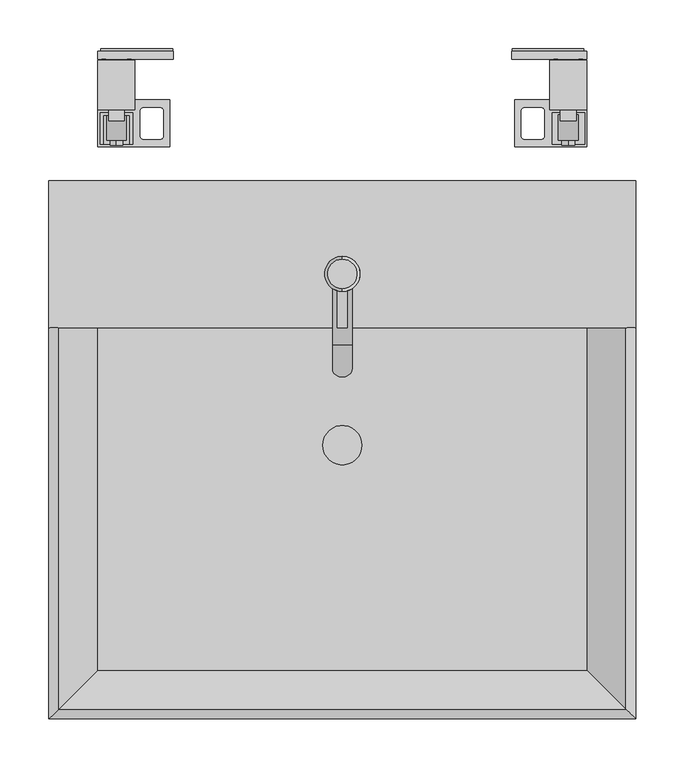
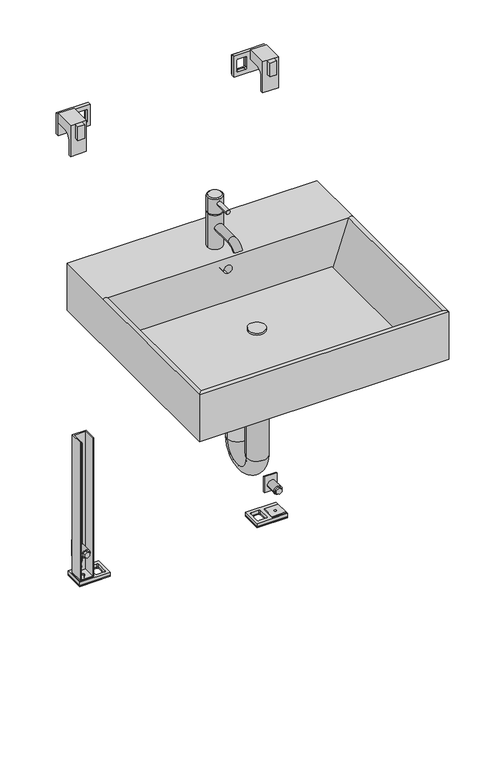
"""IFC4 building model written with IfcOpenShell, lengths in millimetres: flow terminal geometry, nextVIT Waschtisch-Element Wasserzählerstrecke WZ2 Rotguss : nextVIT Waschtisch-Element Wasserzählerstrecke WZ2 Rotguss."""

from ifc_helpers import new_model, si_unit, point, frame, frame_2d, origin, origin_with_axes, place, context, project, spatial, polyline, circle_curve, ellipse_curve, trimmed, segment, composite_curve, outline, extrude, source, transform, mapped, element, save
from ifc_brep_helpers import plane_surface, cylinder_surface, revolved_surface, advanced_brep


def flow_terminal_cf3be14c(model_context):
    return source(origin(), model_context, "Body", "SolidModel", [
        advanced_brep(
        [(0.0, -245.0, 989.0), (0.0, -215.0, 989.0), (18.0, -230.0, 860.0), (-18.0, -230.0, 860.0), (-18.0, -230.0, 946.0), (0.0, -212.0, 946.0), (18.0, -230.0, 946.0), (18.0, -230.0, 986.0), (18.0, -230.0, 949.0), (0.0, -212.0, 949.0), (-18.0, -230.0, 949.0), (-18.0, -230.0, 986.0), (0.0, -212.0, 986.0), (0.0, -248.0, 946.0), (0.0, -248.0, 986.0), (0.0, -248.0, 949.0), (0.0, -245.0, 949.0), (0.0, -215.0, 949.0), (0.0, -245.0, 946.0), (0.0, -215.0, 946.0)],
        [
            (0, 1, circle_curve(frame((0.0, -230.0, 989.0), z_axis=(0.0, 0.0, 1.0), x_axis=(0.0, 1.0, 0.0)), 15.0)),
            (1, 0, circle_curve(frame((0.0, -230.0, 989.0), z_axis=(0.0, 0.0, 1.0), x_axis=(0.0, 1.0, 0.0)), 15.0)),
            (2, 3, circle_curve(frame((0.0, -230.0, 860.0), z_axis=(0.0, 0.0, -1.0), x_axis=(-1.0, 0.0, 0.0)), 18.0)),
            (3, 2, circle_curve(frame((0.0, -230.0, 860.0), z_axis=(0.0, 0.0, -1.0), x_axis=(-1.0, 0.0, 0.0)), 18.0)),
            (3, 4),
            (4, 5, circle_curve(frame((0.0, -230.0, 946.0), z_axis=(0.0, 0.0, -1.0), x_axis=(-1.0, 0.0, 0.0)), 18.0)),
            (5, 6, circle_curve(frame((0.0, -230.0, 946.0), z_axis=(0.0, 0.0, -1.0), x_axis=(-1.0, 0.0, 0.0)), 18.0)),
            (6, 2),
            (7, 8),
            (8, 9, circle_curve(frame((0.0, -230.0, 949.0), z_axis=(0.0, 0.0, 1.0), x_axis=(-1.0, 0.0, 0.0)), 18.0)),
            (9, 10, circle_curve(frame((0.0, -230.0, 949.0), z_axis=(0.0, 0.0, 1.0), x_axis=(-1.0, 0.0, 0.0)), 18.0)),
            (10, 11),
            (11, 12, circle_curve(frame((0.0, -230.0, 986.0), z_axis=(0.0, 0.0, -1.0), x_axis=(-1.0, 0.0, 0.0)), 18.0)),
            (12, 7, circle_curve(frame((0.0, -230.0, 986.0), z_axis=(0.0, 0.0, -1.0), x_axis=(-1.0, 0.0, 0.0)), 18.0)),
            (6, 13, circle_curve(frame((0.0, -230.0, 946.0), z_axis=(0.0, 0.0, -1.0), x_axis=(-1.0, 0.0, 0.0)), 18.0)),
            (13, 4, circle_curve(frame((0.0, -230.0, 946.0), z_axis=(0.0, 0.0, -1.0), x_axis=(-1.0, 0.0, 0.0)), 18.0)),
            (7, 14, circle_curve(frame((0.0, -230.0, 986.0), z_axis=(0.0, 0.0, -1.0), x_axis=(-1.0, 0.0, 0.0)), 18.0)),
            (14, 11, circle_curve(frame((0.0, -230.0, 986.0), z_axis=(0.0, 0.0, -1.0), x_axis=(-1.0, 0.0, 0.0)), 18.0)),
            (10, 15, circle_curve(frame((0.0, -230.0, 949.0), z_axis=(0.0, 0.0, 1.0), x_axis=(-1.0, 0.0, 0.0)), 18.0)),
            (15, 8, circle_curve(frame((0.0, -230.0, 949.0), z_axis=(0.0, 0.0, 1.0), x_axis=(-1.0, 0.0, 0.0)), 18.0)),
            (15, 16),
            (16, 17, circle_curve(frame((0.0, -230.0, 949.0), z_axis=(0.0, 0.0, 1.0), x_axis=(0.0, 1.0, 0.0)), 15.0)),
            (17, 9),
            (17, 16, circle_curve(frame((0.0, -230.0, 949.0), z_axis=(0.0, 0.0, 1.0), x_axis=(0.0, 1.0, 0.0)), 15.0)),
            (18, 13),
            (5, 19),
            (19, 18, circle_curve(frame((0.0, -230.0, 946.0), z_axis=(0.0, 0.0, -1.0), x_axis=(0.0, 1.0, 0.0)), 15.0)),
            (18, 19, circle_curve(frame((0.0, -230.0, 946.0), z_axis=(0.0, 0.0, -1.0), x_axis=(0.0, 1.0, 0.0)), 15.0)),
            (16, 18),
            (19, 17),
            (0, 14),
            (12, 1),
        ],
        [
            plane_surface(frame((-18.0, -230.0, 989.0), z_axis=(0.0, 0.0, 1.0), x_axis=(0.0, -1.0, 0.0))),
            plane_surface(frame((-18.0, -230.0, 860.0), z_axis=(0.0, 0.0, -1.0), x_axis=(0.0, 1.0, 0.0))),
            cylinder_surface(frame((0.0, -230.0, 860.0), z_axis=(0.0, 0.0, 1.0), x_axis=(-1.0, 0.0, 0.0)), 18.0),
            plane_surface(frame((0.0, -230.0, 949.0), z_axis=(0.0, 0.0, -1.0), x_axis=(0.0, 1.0, 0.0))),
            plane_surface(frame((0.0, -230.0, 946.0), z_axis=(0.0, 0.0, 1.0), x_axis=(0.0, 1.0, 0.0))),
            cylinder_surface(frame((0.0, -230.0, 2498.4), z_axis=(0.0, 0.0, -1.0), x_axis=(0.0, 1.0, 0.0)), 15.0),
            revolved_surface(polyline([(0.0, -215.0, 989.0), (0.0, -212.0, 986.0)]), (0.0, -230.0, 2498.4), (0.0, 0.0, -1.0)),
        ],
        [
            (0, [[1, 2]]),
            (1, [[3, 4]]),
            (2, [[-4, 5, 6, 7, 8]]),
            (2, [[9, 10, 11, 12, 13, 14]]),
            (2, [[-3, -8, 15, 16, -5]]),
            (2, [[-9, 17, 18, -12, 19, 20]]),
            (3, [[21, 22, 23, -10, -20]]),
            (3, [[-21, -19, -11, -23, 24]]),
            (4, [[25, -15, -7, 26, 27]]),
            (4, [[-25, 28, -26, -6, -16]]),
            (5, [[-22, 29, -27, 30]]),
            (5, [[-24, -30, -28, -29]]),
            (6, [[31, -17, -14, 32, -1]]),
            (6, [[-31, -2, -32, -13, -18]]),
        ],
    ),
        advanced_brep(
        [(10.0, -230.0, 914.1831887), (-10.0, -230.0, 914.1831887), (10.0, -302.3523429, 914.1831887), (-10.0, -302.3523429, 914.1831887), (10.0, -327.1123284, 901.122584), (-10.0, -327.1123284, 901.122584)],
        [
            (0, 1, circle_curve(frame((0.0, -230.0, 914.1831887), z_axis=(0.0, 1.0, 0.0), x_axis=(-1.0, 0.0, 0.0)), 10.0)),
            (1, 0, circle_curve(frame((0.0, -230.0, 914.1831887), z_axis=(0.0, 1.0, 0.0), x_axis=(-1.0, 0.0, 0.0)), 10.0)),
            (0, 2),
            (2, 3, circle_curve(frame((0.0, -302.3523429, 914.1831887), z_axis=(0.0, 1.0, 0.0), x_axis=(-1.0, 0.0, 0.0)), 10.0)),
            (3, 1),
            (3, 2, circle_curve(frame((0.0, -302.3523429, 914.1831887), z_axis=(0.0, 1.0, 0.0), x_axis=(-1.0, 0.0, 0.0)), 10.0)),
            (4, 5, circle_curve(frame((0.0, -327.1123284, 901.122584), z_axis=(0.0, -0.5646465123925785, -0.8253328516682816), x_axis=(-1.0, 0.0, 0.0)), 10.0)),
            (5, 4, circle_curve(frame((0.0, -327.1123284, 901.122584), z_axis=(0.0, -0.5646465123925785, -0.8253328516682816), x_axis=(-1.0, 0.0, 0.0)), 10.0)),
            (5, 3, circle_curve(frame((-10.0, -302.3523429, 884.1831887), z_axis=(-1.0, 0.0, 0.0), x_axis=(0.0, 0.0, 1.0)), 30.0)),
            (2, 4, circle_curve(frame((10.0, -302.3523429, 884.1831887), z_axis=(1.0, 0.0, 0.0), x_axis=(0.0, 0.0, 1.0)), 30.0)),
        ],
        [
            plane_surface(frame((0.0, -230.0, 914.1831887), z_axis=(0.0, 1.0, 0.0), x_axis=(-1.0, 0.0, 0.0))),
            cylinder_surface(frame((0.0, -230.0, 914.1831887), z_axis=(0.0, 1.0, 0.0), x_axis=(-1.0, 0.0, 0.0)), 10.0),
            plane_surface(frame((0.0, -327.1123284, 901.122584), z_axis=(0.0, -0.5646465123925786, -0.8253328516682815), x_axis=(-1.0, 0.0, 0.0))),
            revolved_surface(trimmed(ellipse_curve(frame((0.0, -302.3523429, 914.1831887), z_axis=(0.0, 1.0, 0.0), x_axis=(-1.0, 0.0, 0.0)), 10.0, 10.0), [point((10.0, -302.3523429, 914.1831887))], [point((-10.0, -302.3523429, 914.1831887))], True, "CARTESIAN"), (0.0, -302.3523429, 884.1831887), (1.0, 0.0, 0.0)),
            revolved_surface(trimmed(ellipse_curve(frame((0.0, -302.3523429, 914.1831887), z_axis=(0.0, 1.0, 0.0), x_axis=(-1.0, 0.0, 0.0)), 10.0, 10.0), [point((-10.0, -302.3523429, 914.1831887))], [point((10.0, -302.3523429, 914.1831887))], True, "CARTESIAN"), (0.0, -302.3523429, 884.1831887), (1.0, 0.0, 0.0)),
        ],
        [
            (0, [[1, 2]]),
            (1, [[-1, 3, 4, 5]]),
            (1, [[-2, -5, 6, -3]]),
            (2, [[7, 8]]),
            (3, [[9, -4, 10, -8]]),
            (4, [[-10, -6, -9, -7]]),
        ],
    ),
        extrude(outline(composite_curve([segment(trimmed(circle_curve(frame_2d((975.4905764, 0.0)), 5.0), [point((975.4905764, -5.0))], [point((975.4905764, 5.0))], False, "CARTESIAN"), True, "CONTINUOUS"), segment(trimmed(circle_curve(frame_2d((975.4905764, 0.0)), 5.0), [point((975.4905764, 5.0))], [point((975.4905764, -5.0))], False, "CARTESIAN"), True, "CONTINUOUS")], self_intersect=False)), frame((0.0, -285.0, 0.0), z_axis=(0.0, 1.0, 0.0), x_axis=(0.0, 0.0, 1.0)), (0.0, 0.0, 1.0), 55.0),
        extrude(outline(composite_curve([segment(trimmed(circle_curve(frame_2d((0.0, -405.0)), 20.0), [point((-20.0, -405.0))], [point((20.0, -405.0))], False, "CARTESIAN"), True, "CONTINUOUS"), segment(trimmed(circle_curve(frame_2d((0.0, -405.0)), 20.0), [point((20.0, -405.0))], [point((-20.0, -405.0))], False, "CARTESIAN"), True, "CONTINUOUS")], self_intersect=False)), frame((0.0, 0.0, 750.0), z_axis=(0.0, 0.0, 1.0), x_axis=(1.0, 0.0, 0.0)), (0.0, 0.0, 1.0), 5.0),
        advanced_brep(
        [(-25.0, -405.0, 740.0), (25.0, -405.0, 740.0), (-25.0, -405.0, 433.2), (25.0, -405.0, 433.2), (25.0, -325.0, 433.2), (-25.0, -325.0, 433.2), (-25.0, -325.0, 483.2), (25.0, -325.0, 483.2), (25.0, -285.0, 523.2), (-25.0, -285.0, 523.2), (-25.0, -135.0, 523.2), (25.0, -135.0, 523.2)],
        [
            (0, 1, circle_curve(frame((0.0, -405.0, 740.0), z_axis=(0.0, 0.0, 1.0), x_axis=(1.0, 0.0, 0.0)), 25.0)),
            (1, 0, circle_curve(frame((0.0, -405.0, 740.0), z_axis=(0.0, 0.0, 1.0), x_axis=(1.0, 0.0, 0.0)), 25.0)),
            (0, 2),
            (2, 3, circle_curve(frame((0.0, -405.0, 433.2), z_axis=(0.0, 0.0, 1.0), x_axis=(1.0, 0.0, 0.0)), 25.0)),
            (3, 1),
            (3, 2, circle_curve(frame((0.0, -405.0, 433.2), z_axis=(0.0, 0.0, 1.0), x_axis=(1.0, 0.0, 0.0)), 25.0)),
            (4, 3, circle_curve(frame((25.0, -365.0, 433.2), z_axis=(-1.0, 0.0, 0.0), x_axis=(0.0, -1.0, 0.0)), 40.0)),
            (2, 5, circle_curve(frame((-25.0, -365.0, 433.2), z_axis=(1.0, 0.0, 0.0), x_axis=(0.0, -1.0, 0.0)), 40.0)),
            (5, 4, circle_curve(frame((0.0, -325.0, 433.2), z_axis=(0.0, 0.0, -1.0), x_axis=(1.0, 0.0, 0.0)), 25.0)),
            (4, 5, circle_curve(frame((0.0, -325.0, 433.2), z_axis=(0.0, 0.0, -1.0), x_axis=(1.0, 0.0, 0.0)), 25.0)),
            (5, 6),
            (6, 7, circle_curve(frame((0.0, -325.0, 483.2), z_axis=(0.0, 0.0, -1.0), x_axis=(1.0, 0.0, 0.0)), 25.0)),
            (7, 4),
            (7, 6, circle_curve(frame((0.0, -325.0, 483.2), z_axis=(0.0, 0.0, -1.0), x_axis=(1.0, 0.0, 0.0)), 25.0)),
            (8, 7, circle_curve(frame((25.0, -285.0, 483.2), z_axis=(1.0, 0.0, 0.0), x_axis=(0.0, -1.0, 0.0)), 40.0)),
            (6, 9, circle_curve(frame((-25.0, -285.0, 483.2), z_axis=(-1.0, 0.0, 0.0), x_axis=(0.0, -1.0, 0.0)), 40.0)),
            (9, 8, circle_curve(frame((0.0, -285.0, 523.2), z_axis=(0.0, -1.0, 0.0), x_axis=(1.0, 0.0, 0.0)), 25.0)),
            (8, 9, circle_curve(frame((0.0, -285.0, 523.2), z_axis=(0.0, -1.0, 0.0), x_axis=(1.0, 0.0, 0.0)), 25.0)),
            (10, 11, circle_curve(frame((0.0, -135.0, 523.2), z_axis=(0.0, 1.0, 0.0), x_axis=(1.0, 0.0, 0.0)), 25.0)),
            (11, 10, circle_curve(frame((0.0, -135.0, 523.2), z_axis=(0.0, 1.0, 0.0), x_axis=(1.0, 0.0, 0.0)), 25.0)),
            (9, 10),
            (11, 8),
        ],
        [
            plane_surface(frame((0.0, -405.0, 740.0), z_axis=(0.0, 0.0, 1.0), x_axis=(1.0, 0.0, 0.0))),
            cylinder_surface(frame((0.0, -405.0, 740.0), z_axis=(0.0, 0.0, 1.0), x_axis=(1.0, 0.0, 0.0)), 25.0),
            revolved_surface(trimmed(ellipse_curve(frame((0.0, -405.0, 433.2), z_axis=(0.0, 0.0, 1.0), x_axis=(1.0, 0.0, 0.0)), 25.0, 25.0), [point((-25.0, -405.0, 433.2))], [point((25.0, -405.0, 433.2))], True, "CARTESIAN"), (0.0, -365.0, 433.2), (1.0, 0.0, 0.0)),
            revolved_surface(trimmed(ellipse_curve(frame((0.0, -405.0, 433.2), z_axis=(0.0, 0.0, 1.0), x_axis=(1.0, 0.0, 0.0)), 25.0, 25.0), [point((25.0, -405.0, 433.2))], [point((-25.0, -405.0, 433.2))], True, "CARTESIAN"), (0.0, -365.0, 433.2), (1.0, 0.0, 0.0)),
            cylinder_surface(frame((0.0, -325.0, 433.2), z_axis=(0.0, 0.0, -1.0), x_axis=(1.0, 0.0, 0.0)), 25.0),
            revolved_surface(trimmed(ellipse_curve(frame((0.0, -325.0, 483.2), z_axis=(0.0, 0.0, -1.0), x_axis=(1.0, 0.0, 0.0)), 25.0, 25.0), [point((-25.0, -325.0, 483.2))], [point((25.0, -325.0, 483.2))], True, "CARTESIAN"), (0.0, -285.0, 483.2), (-1.0, 0.0, 0.0)),
            revolved_surface(trimmed(ellipse_curve(frame((0.0, -325.0, 483.2), z_axis=(0.0, 0.0, -1.0), x_axis=(1.0, 0.0, 0.0)), 25.0, 25.0), [point((25.0, -325.0, 483.2))], [point((-25.0, -325.0, 483.2))], True, "CARTESIAN"), (0.0, -285.0, 483.2), (-1.0, 0.0, 0.0)),
            plane_surface(frame((0.0, -135.0, 523.2), z_axis=(0.0, 1.0, 0.0), x_axis=(1.0, 0.0, 0.0))),
            cylinder_surface(frame((0.0, -285.0, 523.2), z_axis=(0.0, -1.0, 0.0), x_axis=(1.0, 0.0, 0.0)), 25.0),
        ],
        [
            (0, [[1, 2]]),
            (1, [[-1, 3, 4, 5]]),
            (1, [[-2, -5, 6, -3]]),
            (2, [[7, -4, 8, 9]]),
            (3, [[-8, -6, -7, 10]]),
            (4, [[-9, 11, 12, 13]]),
            (4, [[-10, -13, 14, -11]]),
            (5, [[15, -12, 16, 17]]),
            (6, [[-16, -14, -15, 18]]),
            (7, [[19, 20]]),
            (8, [[-17, 21, -20, 22]]),
            (8, [[-18, -22, -19, -21]]),
        ],
    ),
        advanced_brep(
        [(-300.0, -135.0, 860.0), (-300.0, -135.0, 740.0), (-300.0, -685.0, 740.0), (-300.0, -685.0, 860.0), (-300.0, -285.0, 860.0), (300.0, -135.0, 860.0), (300.0, -285.0, 860.0), (300.0, -685.0, 860.0), (300.0, -685.0, 740.0), (300.0, -135.0, 740.0), (-290.0, -285.0, 860.0), (290.0, -285.0, 860.0), (-250.0, -285.0, 740.0), (250.0, -285.0, 740.0), (0.0, -285.0, 840.3782299), (0.0, -285.0, 820.3782299), (-250.0, -635.0, 740.0), (250.0, -635.0, 740.0), (-290.0, -675.0, 860.0), (290.0, -675.0, 860.0), (0.0, -177.2094326, 840.3782299), (0.0, -177.2094326, 820.3782299)],
        [
            (0, 1),
            (1, 2),
            (2, 3),
            (3, 4),
            (4, 0),
            (5, 6),
            (6, 7),
            (7, 8),
            (8, 9),
            (9, 5),
            (4, 10),
            (10, 11),
            (11, 6),
            (5, 0),
            (10, 12),
            (12, 13),
            (13, 11),
            (14, 15, circle_curve(frame((0.0, -285.0, 830.3782299), z_axis=(0.0, 1.0, 0.0), x_axis=(0.0, 0.0, -1.0)), 10.0)),
            (15, 14, circle_curve(frame((0.0, -285.0, 830.3782299), z_axis=(0.0, 1.0, 0.0), x_axis=(0.0, 0.0, -1.0)), 10.0)),
            (1, 9),
            (8, 2),
            (12, 16),
            (16, 17),
            (17, 13),
            (4, 10, circle_curve(frame((-295.0, -285.0, 852.6162401), z_axis=(0.0, 1.0, 0.0), x_axis=(1.0, 0.0, 0.0)), 8.9173937)),
            (10, 18),
            (18, 16),
            (7, 3),
            (18, 19),
            (19, 17),
            (11, 6, circle_curve(frame((295.0, -285.0, 852.6162401), z_axis=(0.0, 1.0, 0.0), x_axis=(-1.0, 0.0, 0.0)), 8.9173937)),
            (19, 11),
            (3, 18, ellipse_curve(frame((-295.0, -680.0, 852.6162401), z_axis=(-0.7071067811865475, 0.7071067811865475, 0.0), x_axis=(0.7071067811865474, 0.7071067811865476, 0.0)), 12.6110991, 8.9173937)),
            (7, 19, ellipse_curve(frame((295.0, -680.0, 852.6162401), z_axis=(-0.7071067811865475, -0.7071067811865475, 0.0), x_axis=(-0.7071067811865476, 0.7071067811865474, 0.0)), 12.6110991, 8.9173937)),
            (20, 21, circle_curve(frame((0.0, -177.2094326, 830.3782299), z_axis=(0.0, -1.0, 0.0), x_axis=(0.0, 0.0, -1.0)), 10.0)),
            (21, 20, circle_curve(frame((0.0, -177.2094326, 830.3782299), z_axis=(0.0, -1.0, 0.0), x_axis=(0.0, 0.0, -1.0)), 10.0)),
            (21, 15),
            (14, 20),
        ],
        [
            plane_surface(frame((-300.0, -285.0, 860.0), z_axis=(-1.0, 0.0, 0.0), x_axis=(0.0, 1.0, 0.0))),
            plane_surface(frame((300.0, -285.0, 860.0), z_axis=(1.0, 0.0, 0.0), x_axis=(0.0, -1.0, 0.0))),
            plane_surface(frame((300.0, -135.0, 860.0), z_axis=(0.0, 0.0, 1.0), x_axis=(-1.0, 0.0, 0.0))),
            plane_surface(frame((300.0, -285.0, 860.0), z_axis=(0.0, -1.0, 0.0), x_axis=(-1.0, 0.0, 0.0))),
            plane_surface(frame((300.0, -285.0, 740.0), z_axis=(0.0, 0.0, -1.0), x_axis=(-1.0, 0.0, 0.0))),
            plane_surface(frame((300.0, -135.0, 740.0), z_axis=(0.0, 1.0, 0.0), x_axis=(-1.0, 0.0, 0.0))),
            plane_surface(frame((-300.0, -285.0, 800.0), z_axis=(0.0, 1.0, 0.0), x_axis=(0.0, 0.0, 1.0))),
            plane_surface(frame((-290.0, -285.0, 860.0), z_axis=(0.9486832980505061, 0.0, 0.31622776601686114), x_axis=(0.0, -1.0, 0.0))),
            plane_surface(frame((-300.0, -685.0, 740.0), z_axis=(0.0, -1.0, 0.0), x_axis=(1.0, 0.0, 0.0))),
            plane_surface(frame((-290.0, -675.0, 860.0), z_axis=(0.0, 0.9486832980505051, 0.31622776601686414), x_axis=(1.0, 0.0, 0.0))),
            plane_surface(frame((300.0, -285.0, 800.0), z_axis=(0.0, 1.0, 0.0), x_axis=(0.0, 0.0, 1.0))),
            plane_surface(frame((290.0, -675.0, 860.0), z_axis=(-0.9486832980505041, 0.0, 0.31622776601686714), x_axis=(0.0, 1.0, 0.0))),
            cylinder_surface(frame((-295.0, -285.0, 852.6162401), z_axis=(0.0, 1.0, 0.0), x_axis=(1.0, 0.0, 0.0)), 8.9173937),
            cylinder_surface(frame((-300.0, -680.0, 852.6162401), z_axis=(-1.0, 0.0, 0.0), x_axis=(0.0, 1.0, 0.0)), 8.9173937),
            cylinder_surface(frame((295.0, -685.0, 852.6162401), z_axis=(0.0, -1.0, 0.0), x_axis=(-1.0, 0.0, 0.0)), 8.9173937),
            plane_surface(frame((0.0, -177.2094326, 820.3782299), z_axis=(0.0, -1.0, 0.0), x_axis=(-1.0, 0.0, 0.0))),
            revolved_surface(polyline([(0.0, -177.2094326, 820.3782299), (0.0, -285.0, 820.3782299)]), (0.0, -285.0, 830.3782299), (0.0, 1.0, 0.0)),
        ],
        [
            (0, [[1, 2, 3, 4, 5]]),
            (1, [[6, 7, 8, 9, 10]]),
            (2, [[-5, 11, 12, 13, -6, 14]]),
            (3, [[-12, 15, 16, 17], [18, 19]]),
            (4, [[20, -9, 21, -2], [22, 23, 24, -16]]),
            (5, [[-1, -14, -10, -20]]),
            (6, [[25, -11]]),
            (7, [[26, 27, -22, -15]]),
            (8, [[-3, -21, -8, 28]]),
            (9, [[-27, 29, 30, -23]]),
            (10, [[31, -13]]),
            (11, [[-24, -30, 32, -17]]),
            (12, [[-25, -4, 33, -26]]),
            (13, [[-28, 34, -29, -33]]),
            (14, [[-31, -32, -34, -7]]),
            (15, [[35, 36]]),
            (16, [[-36, 37, -18, 38]]),
            (16, [[-35, -38, -19, -37]]),
        ],
    ),
        extrude(outline(polyline([(250.0, -285.0), (250.0, -635.0), (-250.0, -635.0), (-250.0, -285.0), (250.0, -285.0)])), frame((0.0, 0.0, 740.0), z_axis=(0.0, 0.0, 1.0), x_axis=(1.0, 0.0, 0.0)), (0.0, 0.0, 1.0), 10.0),
        extrude(outline(polyline([(176.5, -52.0), (250.0, -52.0), (250.0, -100.0), (176.5, -100.0), (176.5, -52.0)]), holes=[composite_curve([segment(trimmed(circle_curve(frame_2d((186.0, -89.0)), 3.0), [point((183.0, -89.0))], [point((186.0, -92.0))], True, "CARTESIAN"), True, "CONTINUOUS"), segment(polyline([(186.0, -92.0), (203.5, -92.0)]), True, "CONTINUOUS"), segment(trimmed(circle_curve(frame_2d((203.5, -89.0)), 3.0), [point((203.5, -92.0))], [point((206.5, -89.0))], True, "CARTESIAN"), True, "CONTINUOUS"), segment(polyline([(206.5, -89.0), (206.5, -63.0)]), True, "CONTINUOUS"), segment(trimmed(circle_curve(frame_2d((203.5, -63.0)), 3.0), [point((206.5, -63.0))], [point((203.5, -60.0))], True, "CARTESIAN"), True, "CONTINUOUS"), segment(polyline([(203.5, -60.0), (186.0, -60.0)]), True, "CONTINUOUS"), segment(trimmed(circle_curve(frame_2d((186.0, -63.0)), 3.0), [point((186.0, -60.0))], [point((183.0, -63.0))], True, "CARTESIAN"), True, "CONTINUOUS"), segment(polyline([(183.0, -63.0), (183.0, -89.0)]), True, "CONTINUOUS")], self_intersect=False)]), origin_with_axes(), (0.0, 0.0, 1.0), 2.5),
        extrude(outline(polyline([(176.5, -52.0), (250.0, -52.0), (250.0, -100.0), (176.5, -100.0), (176.5, -52.0)]), holes=[composite_curve([segment(trimmed(circle_curve(frame_2d((186.0, -89.0)), 3.0), [point((183.0, -89.0))], [point((186.0, -92.0))], True, "CARTESIAN"), True, "CONTINUOUS"), segment(polyline([(186.0, -92.0), (203.5, -92.0)]), True, "CONTINUOUS"), segment(trimmed(circle_curve(frame_2d((203.5, -89.0)), 3.0), [point((203.5, -92.0))], [point((206.5, -89.0))], True, "CARTESIAN"), True, "CONTINUOUS"), segment(polyline([(206.5, -89.0), (206.5, -63.0)]), True, "CONTINUOUS"), segment(trimmed(circle_curve(frame_2d((203.5, -63.0)), 3.0), [point((206.5, -63.0))], [point((203.5, -60.0))], True, "CARTESIAN"), True, "CONTINUOUS"), segment(polyline([(203.5, -60.0), (186.0, -60.0)]), True, "CONTINUOUS"), segment(trimmed(circle_curve(frame_2d((186.0, -63.0)), 3.0), [point((186.0, -60.0))], [point((183.0, -63.0))], True, "CARTESIAN"), True, "CONTINUOUS"), segment(polyline([(183.0, -63.0), (183.0, -89.0)]), True, "CONTINUOUS")], self_intersect=False), composite_curve([segment(trimmed(circle_curve(frame_2d((232.45, -71.0)), 3.25), [point((235.7, -71.0))], [point((229.2, -71.0))], True, "CARTESIAN"), True, "CONTINUOUS"), segment(polyline([(229.2, -71.0), (229.2, -81.0)]), True, "CONTINUOUS"), segment(trimmed(circle_curve(frame_2d((232.45, -81.0)), 3.25), [point((229.2, -81.0))], [point((235.7, -81.0))], True, "CARTESIAN"), True, "CONTINUOUS"), segment(polyline([(235.7, -81.0), (235.7, -71.0)]), True, "CONTINUOUS")], self_intersect=False)]), frame((0.0, 0.0, 2.5), z_axis=(0.0, 0.0, 1.0), x_axis=(1.0, 0.0, 0.0)), (0.0, 0.0, 1.0), 8.0),
        extrude(outline(polyline([(-176.5, -52.0), (-176.5, -100.0), (-250.0, -100.0), (-250.0, -52.0), (-176.5, -52.0)]), holes=[composite_curve([segment(polyline([(-183.0, -89.0), (-183.0, -63.0)]), True, "CONTINUOUS"), segment(trimmed(circle_curve(frame_2d((-186.0, -63.0)), 3.0), [point((-183.0, -63.0))], [point((-186.0, -60.0))], True, "CARTESIAN"), True, "CONTINUOUS"), segment(polyline([(-186.0, -60.0), (-203.5, -60.0)]), True, "CONTINUOUS"), segment(trimmed(circle_curve(frame_2d((-203.5, -63.0)), 3.0), [point((-203.5, -60.0))], [point((-206.5, -63.0))], True, "CARTESIAN"), True, "CONTINUOUS"), segment(polyline([(-206.5, -63.0), (-206.5, -89.0)]), True, "CONTINUOUS"), segment(trimmed(circle_curve(frame_2d((-203.5, -89.0)), 3.0), [point((-206.5, -89.0))], [point((-203.5, -92.0))], True, "CARTESIAN"), True, "CONTINUOUS"), segment(polyline([(-203.5, -92.0), (-186.0, -92.0)]), True, "CONTINUOUS"), segment(trimmed(circle_curve(frame_2d((-186.0, -89.0)), 3.0), [point((-186.0, -92.0))], [point((-183.0, -89.0))], True, "CARTESIAN"), True, "CONTINUOUS")], self_intersect=False)]), origin_with_axes(), (0.0, 0.0, 1.0), 2.5),
        extrude(outline(polyline([(-176.5, -52.0), (-176.5, -100.0), (-250.0, -100.0), (-250.0, -52.0), (-176.5, -52.0)]), holes=[composite_curve([segment(polyline([(-183.0, -89.0), (-183.0, -63.0)]), True, "CONTINUOUS"), segment(trimmed(circle_curve(frame_2d((-186.0, -63.0)), 3.0), [point((-183.0, -63.0))], [point((-186.0, -60.0))], True, "CARTESIAN"), True, "CONTINUOUS"), segment(polyline([(-186.0, -60.0), (-203.5, -60.0)]), True, "CONTINUOUS"), segment(trimmed(circle_curve(frame_2d((-203.5, -63.0)), 3.0), [point((-203.5, -60.0))], [point((-206.5, -63.0))], True, "CARTESIAN"), True, "CONTINUOUS"), segment(polyline([(-206.5, -63.0), (-206.5, -89.0)]), True, "CONTINUOUS"), segment(trimmed(circle_curve(frame_2d((-203.5, -89.0)), 3.0), [point((-206.5, -89.0))], [point((-203.5, -92.0))], True, "CARTESIAN"), True, "CONTINUOUS"), segment(polyline([(-203.5, -92.0), (-186.0, -92.0)]), True, "CONTINUOUS"), segment(trimmed(circle_curve(frame_2d((-186.0, -89.0)), 3.0), [point((-186.0, -92.0))], [point((-183.0, -89.0))], True, "CARTESIAN"), True, "CONTINUOUS")], self_intersect=False), composite_curve([segment(polyline([(-235.7, -71.0), (-235.7, -81.0)]), True, "CONTINUOUS"), segment(trimmed(circle_curve(frame_2d((-232.45, -81.0)), 3.25), [point((-235.7, -81.0))], [point((-229.2, -81.0))], True, "CARTESIAN"), True, "CONTINUOUS"), segment(polyline([(-229.2, -81.0), (-229.2, -71.0)]), True, "CONTINUOUS"), segment(trimmed(circle_curve(frame_2d((-232.45, -71.0)), 3.25), [point((-229.2, -71.0))], [point((-235.7, -71.0))], True, "CARTESIAN"), True, "CONTINUOUS")], self_intersect=False)]), frame((0.0, 0.0, 2.5), z_axis=(0.0, 0.0, 1.0), x_axis=(1.0, 0.0, 0.0)), (0.0, 0.0, 1.0), 8.0),
        extrude(outline(polyline([(1141.522581, 173.5), (1093.522581, 173.5), (1093.522581, 247.0), (1141.522581, 247.0), (1141.522581, 173.5)]), holes=[composite_curve([segment(polyline([(1104.522581, 180.0), (1130.522581, 180.0)]), True, "CONTINUOUS"), segment(trimmed(circle_curve(frame_2d((1130.522581, 183.0)), 3.0), [point((1130.522581, 180.0))], [point((1133.522581, 183.0))], True, "CARTESIAN"), True, "CONTINUOUS"), segment(polyline([(1133.522581, 183.0), (1133.522581, 200.5)]), True, "CONTINUOUS"), segment(trimmed(circle_curve(frame_2d((1130.522581, 200.5)), 3.0), [point((1133.522581, 200.5))], [point((1130.522581, 203.5))], True, "CARTESIAN"), True, "CONTINUOUS"), segment(polyline([(1130.522581, 203.5), (1104.522581, 203.5)]), True, "CONTINUOUS"), segment(trimmed(circle_curve(frame_2d((1104.522581, 200.5)), 3.0), [point((1104.522581, 203.5))], [point((1101.522581, 200.5))], True, "CARTESIAN"), True, "CONTINUOUS"), segment(polyline([(1101.522581, 200.5), (1101.522581, 183.0)]), True, "CONTINUOUS"), segment(trimmed(circle_curve(frame_2d((1104.522581, 183.0)), 3.0), [point((1101.522581, 183.0))], [point((1104.522581, 180.0))], True, "CARTESIAN"), True, "CONTINUOUS")], self_intersect=False)]), frame((0.0, -2.5, 0.0), z_axis=(0.0, 1.0, 0.0), x_axis=(0.0, 0.0, 1.0)), (0.0, 0.0, 1.0), 2.5),
        extrude(outline(polyline([(1141.522581, -173.5), (1141.522581, -247.0), (1093.522581, -247.0), (1093.522581, -173.5), (1141.522581, -173.5)]), holes=[composite_curve([segment(trimmed(circle_curve(frame_2d((1104.522581, -183.0)), 3.0), [point((1104.522581, -180.0))], [point((1101.522581, -183.0))], True, "CARTESIAN"), True, "CONTINUOUS"), segment(polyline([(1101.522581, -183.0), (1101.522581, -200.5)]), True, "CONTINUOUS"), segment(trimmed(circle_curve(frame_2d((1104.522581, -200.5)), 3.0), [point((1101.522581, -200.5))], [point((1104.522581, -203.5))], True, "CARTESIAN"), True, "CONTINUOUS"), segment(polyline([(1104.522581, -203.5), (1130.522581, -203.5)]), True, "CONTINUOUS"), segment(trimmed(circle_curve(frame_2d((1130.522581, -200.5)), 3.0), [point((1130.522581, -203.5))], [point((1133.522581, -200.5))], True, "CARTESIAN"), True, "CONTINUOUS"), segment(polyline([(1133.522581, -200.5), (1133.522581, -183.0)]), True, "CONTINUOUS"), segment(trimmed(circle_curve(frame_2d((1130.522581, -183.0)), 3.0), [point((1133.522581, -183.0))], [point((1130.522581, -180.0))], True, "CARTESIAN"), True, "CONTINUOUS"), segment(polyline([(1130.522581, -180.0), (1104.522581, -180.0)]), True, "CONTINUOUS")], self_intersect=False)]), frame((0.0, -2.5, 0.0), z_axis=(0.0, 1.0, 0.0), x_axis=(0.0, 0.0, 1.0)), (0.0, 0.0, 1.0), 2.5),
        advanced_brep(
        [(212.0, -11.5, 1124.0), (212.0, -36.0, 1124.0), (212.0, -56.0, 1104.0), (212.0, -56.0, 1069.0231613), (212.0, -62.0, 1069.0231613), (212.0, -62.0, 1148.0), (212.0, -11.5, 1148.0), (250.0, -11.5, 1124.0), (250.0, -11.5, 1148.0), (250.0, -62.0, 1148.0), (250.0, -62.0, 1069.0231613), (250.0, -56.0, 1069.0231613), (250.0, -56.0, 1104.0), (250.0, -36.0, 1124.0), (247.0, -11.5, 1124.0), (247.0, -11.5, 1144.0), (215.0, -11.5, 1144.0), (215.0, -11.5, 1124.0), (215.0, -56.0, 1104.0), (215.0, -56.0, 1144.0), (247.0, -56.0, 1144.0), (247.0, -56.0, 1104.0), (215.0, -36.0, 1124.0), (247.0, -36.0, 1124.0)],
        [
            (0, 1),
            (1, 2, circle_curve(frame((212.0, -36.0, 1104.0), z_axis=(1.0, 0.0, 0.0), x_axis=(0.0, 1.0, 0.0)), 20.0)),
            (2, 3),
            (3, 4),
            (4, 5),
            (5, 6),
            (6, 0),
            (7, 8),
            (8, 9),
            (9, 10),
            (10, 11),
            (11, 12),
            (12, 13, circle_curve(frame((250.0, -36.0, 1104.0), z_axis=(-1.0, 0.0, 0.0), x_axis=(0.0, 1.0, 0.0)), 20.0)),
            (13, 7),
            (6, 8),
            (7, 14),
            (14, 15),
            (15, 16),
            (16, 17),
            (17, 0),
            (5, 9),
            (4, 10),
            (3, 11),
            (2, 18),
            (18, 19),
            (19, 20),
            (20, 21),
            (21, 12),
            (1, 22),
            (22, 18, circle_curve(frame((215.0, -36.0, 1104.0), z_axis=(1.0, 0.0, 0.0), x_axis=(0.0, 1.0, 0.0)), 20.0)),
            (21, 23, circle_curve(frame((247.0, -36.0, 1104.0), z_axis=(-1.0, 0.0, 0.0), x_axis=(0.0, 1.0, 0.0)), 20.0)),
            (23, 13),
            (17, 22),
            (23, 14),
            (16, 19),
            (15, 20),
        ],
        [
            plane_surface(frame((212.0, -36.0, 1124.0), z_axis=(-1.0, 0.0, 0.0), x_axis=(0.0, -1.0, 0.0))),
            plane_surface(frame((250.0, -36.0, 1124.0), z_axis=(1.0, 0.0, 0.0), x_axis=(0.0, 1.0, 0.0))),
            plane_surface(frame((212.0, -11.5, 1148.0), z_axis=(0.0, 1.0, 0.0), x_axis=(1.0, 0.0, 0.0))),
            plane_surface(frame((212.0, -62.0, 1148.0), z_axis=(0.0, 0.0, 1.0), x_axis=(1.0, 0.0, 0.0))),
            plane_surface(frame((212.0, -62.0, 1069.0231613), z_axis=(0.0, -1.0, 0.0), x_axis=(1.0, 0.0, 0.0))),
            plane_surface(frame((212.0, -56.0, 1069.0231613), z_axis=(0.0, 0.0, -1.0), x_axis=(1.0, 0.0, 0.0))),
            plane_surface(frame((212.0, -56.0, 1104.0), z_axis=(0.0, 1.0, 0.0), x_axis=(1.0, 0.0, 0.0))),
            revolved_surface(polyline([(215.0, -16.0, 1104.0), (212.0, -16.0, 1104.0)]), (250.0, -36.0, 1104.0), (1.0, 0.0, 0.0)),
            revolved_surface(polyline([(250.0, -16.0, 1104.0), (247.0, -16.0, 1104.0)]), (250.0, -36.0, 1104.0), (1.0, 0.0, 0.0)),
            plane_surface(frame((212.0, -11.5, 1124.0), z_axis=(0.0, 0.0, -1.0), x_axis=(1.0, 0.0, 0.0))),
            plane_surface(frame((215.0, -56.0, 1144.0), z_axis=(1.0, 0.0, 0.0), x_axis=(0.0, 1.0, 0.0))),
            plane_surface(frame((247.0, -56.0, 1144.0), z_axis=(0.0, 0.0, -1.0), x_axis=(0.0, 1.0, 0.0))),
            plane_surface(frame((247.0, -56.0, 1102.9875977), z_axis=(-1.0, 0.0, 0.0), x_axis=(0.0, 1.0, 0.0))),
        ],
        [
            (0, [[1, 2, 3, 4, 5, 6, 7]]),
            (1, [[8, 9, 10, 11, 12, 13, 14]]),
            (2, [[-7, 15, -8, 16, 17, 18, 19, 20]]),
            (3, [[-6, 21, -9, -15]]),
            (4, [[-5, 22, -10, -21]]),
            (5, [[-4, 23, -11, -22]]),
            (6, [[-3, 24, 25, 26, 27, 28, -12, -23]]),
            (7, [[-2, 29, 30, -24]]),
            (8, [[-13, -28, 31, 32]]),
            (9, [[-1, -20, 33, -29]]),
            (9, [[-14, -32, 34, -16]]),
            (10, [[35, -25, -30, -33, -19]]),
            (11, [[-26, -35, -18, 36]]),
            (12, [[-36, -17, -34, -31, -27]]),
        ],
    ),
        extrude(outline(polyline([(1128.022581, 220.05), (1145.0, 220.05), (1145.0, 216.05), (1124.5225837, 216.05), (1124.5225837, 245.95), (1145.0, 245.95), (1145.0, 241.95), (1128.022581, 241.95), (1128.022581, 220.05)])), frame((0.0, -55.0, 0.0), z_axis=(0.0, 1.0, 0.0), x_axis=(0.0, 0.0, 1.0)), (0.0, 0.0, 1.0), 44.5),
        extrude(outline(polyline([(1144.022581, 250.0), (1144.022581, 173.0), (1091.022581, 173.0), (1091.022581, 250.0), (1144.022581, 250.0)]), holes=[composite_curve([segment(trimmed(circle_curve(frame_2d((1130.522581, 200.5)), 3.0), [point((1133.522581, 200.5))], [point((1130.522581, 203.5))], True, "CARTESIAN"), True, "CONTINUOUS"), segment(polyline([(1130.522581, 203.5), (1104.522581, 203.5)]), True, "CONTINUOUS"), segment(trimmed(circle_curve(frame_2d((1104.522581, 200.5)), 3.0), [point((1104.522581, 203.5))], [point((1101.522581, 200.5))], True, "CARTESIAN"), True, "CONTINUOUS"), segment(polyline([(1101.522581, 200.5), (1101.522581, 183.0)]), True, "CONTINUOUS"), segment(trimmed(circle_curve(frame_2d((1104.522581, 183.0)), 3.0), [point((1101.522581, 183.0))], [point((1104.522581, 180.0))], True, "CARTESIAN"), True, "CONTINUOUS"), segment(polyline([(1104.522581, 180.0), (1130.522581, 180.0)]), True, "CONTINUOUS"), segment(trimmed(circle_curve(frame_2d((1130.522581, 183.0)), 3.0), [point((1130.522581, 180.0))], [point((1133.522581, 183.0))], True, "CARTESIAN"), True, "CONTINUOUS"), segment(polyline([(1133.522581, 183.0), (1133.522581, 200.5)]), True, "CONTINUOUS")], self_intersect=False)]), frame((0.0, -10.5, 0.0), z_axis=(0.0, 1.0, 0.0), x_axis=(0.0, 0.0, 1.0)), (0.0, 0.0, 1.0), 8.0),
        extrude(outline(polyline([(223.0, -62.0), (239.0, -62.0), (239.0, -73.5), (223.0, -73.5), (223.0, -62.0)])), frame((0.0, 0.0, 1113.0), z_axis=(0.0, 0.0, 1.0), x_axis=(1.0, 0.0, 0.0)), (0.0, 0.0, 1.0), 35.0),
        advanced_brep(
        [(-212.0, -11.5, 1124.0), (-212.0, -11.5, 1148.0), (-212.0, -62.0, 1148.0), (-212.0, -62.0, 1069.0231613), (-212.0, -56.0, 1069.0231613), (-212.0, -56.0, 1104.0), (-212.0, -36.0, 1124.0), (-250.0, -11.5, 1124.0), (-250.0, -36.0, 1124.0), (-250.0, -56.0, 1104.0), (-250.0, -56.0, 1069.0231613), (-250.0, -62.0, 1069.0231613), (-250.0, -62.0, 1148.0), (-250.0, -11.5, 1148.0), (-215.0, -11.5, 1124.0), (-215.0, -11.5, 1144.0), (-247.0, -11.5, 1144.0), (-247.0, -11.5, 1124.0), (-247.0, -56.0, 1104.0), (-247.0, -56.0, 1144.0), (-215.0, -56.0, 1144.0), (-215.0, -56.0, 1104.0), (-215.0, -36.0, 1124.0), (-247.0, -36.0, 1124.0)],
        [
            (0, 1),
            (1, 2),
            (2, 3),
            (3, 4),
            (4, 5),
            (5, 6, circle_curve(frame((-212.0, -36.0, 1104.0), z_axis=(-1.0, 0.0, 0.0), x_axis=(0.0, 1.0, 0.0)), 20.0)),
            (6, 0),
            (7, 8),
            (8, 9, circle_curve(frame((-250.0, -36.0, 1104.0), z_axis=(1.0, 0.0, 0.0), x_axis=(0.0, 1.0, 0.0)), 20.0)),
            (9, 10),
            (10, 11),
            (11, 12),
            (12, 13),
            (13, 7),
            (0, 14),
            (14, 15),
            (15, 16),
            (16, 17),
            (17, 7),
            (13, 1),
            (12, 2),
            (11, 3),
            (10, 4),
            (9, 18),
            (18, 19),
            (19, 20),
            (20, 21),
            (21, 5),
            (21, 22, circle_curve(frame((-215.0, -36.0, 1104.0), z_axis=(-1.0, 0.0, 0.0), x_axis=(0.0, 1.0, 0.0)), 20.0)),
            (22, 6),
            (8, 23),
            (23, 18, circle_curve(frame((-247.0, -36.0, 1104.0), z_axis=(1.0, 0.0, 0.0), x_axis=(0.0, 1.0, 0.0)), 20.0)),
            (22, 14),
            (17, 23),
            (20, 15),
            (19, 16),
        ],
        [
            plane_surface(frame((-212.0, -11.5, 1124.0), z_axis=(1.0, 0.0, 0.0), x_axis=(0.0, 0.0, 1.0))),
            plane_surface(frame((-250.0, -11.5, 1124.0), z_axis=(-1.0, 0.0, 0.0), x_axis=(0.0, 0.0, -1.0))),
            plane_surface(frame((-212.0, -11.5, 1124.0), z_axis=(0.0, 1.0, 0.0), x_axis=(-1.0, 0.0, 0.0))),
            plane_surface(frame((-212.0, -11.5, 1148.0), z_axis=(0.0, 0.0, 1.0), x_axis=(-1.0, 0.0, 0.0))),
            plane_surface(frame((-212.0, -62.0, 1148.0), z_axis=(0.0, -1.0, 0.0), x_axis=(-1.0, 0.0, 0.0))),
            plane_surface(frame((-212.0, -62.0, 1069.0231613), z_axis=(0.0, 0.0, -1.0), x_axis=(-1.0, 0.0, 0.0))),
            plane_surface(frame((-212.0, -56.0, 1069.0231613), z_axis=(0.0, 1.0, 0.0), x_axis=(-1.0, 0.0, 0.0))),
            revolved_surface(polyline([(-215.0, -16.0, 1104.0), (-212.0, -16.0, 1104.0)]), (-250.0, -36.0, 1104.0), (-1.0, 0.0, 0.0)),
            revolved_surface(polyline([(-250.0, -16.0, 1104.0), (-247.0, -16.0, 1104.0)]), (-250.0, -36.0, 1104.0), (-1.0, 0.0, 0.0)),
            plane_surface(frame((-212.0, -36.0, 1124.0), z_axis=(0.0, 0.0, -1.0), x_axis=(-1.0, 0.0, 0.0))),
            plane_surface(frame((-215.0, -56.0, 1102.9875977), z_axis=(-1.0, 0.0, 0.0), x_axis=(0.0, 1.0, 0.0))),
            plane_surface(frame((-215.0, -56.0, 1144.0), z_axis=(0.0, 0.0, -1.0), x_axis=(0.0, 1.0, 0.0))),
            plane_surface(frame((-247.0, -56.0, 1144.0), z_axis=(1.0, 0.0, 0.0), x_axis=(0.0, 1.0, 0.0))),
        ],
        [
            (0, [[1, 2, 3, 4, 5, 6, 7]]),
            (1, [[8, 9, 10, 11, 12, 13, 14]]),
            (2, [[-1, 15, 16, 17, 18, 19, -14, 20]]),
            (3, [[-2, -20, -13, 21]]),
            (4, [[-3, -21, -12, 22]]),
            (5, [[-4, -22, -11, 23]]),
            (6, [[-5, -23, -10, 24, 25, 26, 27, 28]]),
            (7, [[-6, -28, 29, 30]]),
            (8, [[-9, 31, 32, -24]]),
            (9, [[-7, -30, 33, -15]]),
            (9, [[-8, -19, 34, -31]]),
            (10, [[35, -16, -33, -29, -27]]),
            (11, [[-26, 36, -17, -35]]),
            (12, [[-36, -25, -32, -34, -18]]),
        ],
    ),
        extrude(outline(polyline([(1128.022581, -220.05), (1128.022581, -241.95), (1145.0, -241.95), (1145.0, -245.95), (1124.5225837, -245.95), (1124.5225837, -216.05), (1145.0, -216.05), (1145.0, -220.05), (1128.022581, -220.05)])), frame((0.0, -55.0, 0.0), z_axis=(0.0, 1.0, 0.0), x_axis=(0.0, 0.0, 1.0)), (0.0, 0.0, 1.0), 44.5),
        extrude(outline(polyline([(1144.022581, -250.0), (1091.022581, -250.0), (1091.022581, -173.0), (1144.022581, -173.0), (1144.022581, -250.0)]), holes=[composite_curve([segment(polyline([(1133.522581, -200.5), (1133.522581, -183.0)]), True, "CONTINUOUS"), segment(trimmed(circle_curve(frame_2d((1130.522581, -183.0)), 3.0), [point((1133.522581, -183.0))], [point((1130.522581, -180.0))], True, "CARTESIAN"), True, "CONTINUOUS"), segment(polyline([(1130.522581, -180.0), (1104.522581, -180.0)]), True, "CONTINUOUS"), segment(trimmed(circle_curve(frame_2d((1104.522581, -183.0)), 3.0), [point((1104.522581, -180.0))], [point((1101.522581, -183.0))], True, "CARTESIAN"), True, "CONTINUOUS"), segment(polyline([(1101.522581, -183.0), (1101.522581, -200.5)]), True, "CONTINUOUS"), segment(trimmed(circle_curve(frame_2d((1104.522581, -200.5)), 3.0), [point((1101.522581, -200.5))], [point((1104.522581, -203.5))], True, "CARTESIAN"), True, "CONTINUOUS"), segment(polyline([(1104.522581, -203.5), (1130.522581, -203.5)]), True, "CONTINUOUS"), segment(trimmed(circle_curve(frame_2d((1130.522581, -200.5)), 3.0), [point((1130.522581, -203.5))], [point((1133.522581, -200.5))], True, "CARTESIAN"), True, "CONTINUOUS")], self_intersect=False)]), frame((0.0, -10.5, 0.0), z_axis=(0.0, 1.0, 0.0), x_axis=(0.0, 0.0, 1.0)), (0.0, 0.0, 1.0), 8.0),
        extrude(outline(polyline([(-223.0, -62.0), (-223.0, -73.5), (-239.0, -73.5), (-239.0, -62.0), (-223.0, -62.0)])), frame((0.0, 0.0, 1113.0), z_axis=(0.0, 0.0, 1.0), x_axis=(1.0, 0.0, 0.0)), (0.0, 0.0, 1.0), 35.0),
        extrude(outline(polyline([(79.7055535, -231.0), (75.9527767, -237.5), (68.4472233, -237.5), (64.6944465, -231.0), (68.4472233, -224.5), (75.9527767, -224.5), (79.7055535, -231.0)])), frame((0.0, -98.3, 0.0), z_axis=(0.0, 1.0, 0.0), x_axis=(0.0, 0.0, 1.0)), (0.0, 0.0, 1.0), 5.3),
        extrude(outline(composite_curve([segment(trimmed(circle_curve(frame_2d((72.2, -231.0)), 10.0), [point((72.2, -241.0))], [point((72.2, -221.0))], False, "CARTESIAN"), True, "CONTINUOUS"), segment(trimmed(circle_curve(frame_2d((72.2, -231.0)), 10.0), [point((72.2, -221.0))], [point((72.2, -241.0))], False, "CARTESIAN"), True, "CONTINUOUS")], self_intersect=False)), frame((0.0, -93.0, 0.0), z_axis=(0.0, 1.0, 0.0), x_axis=(0.0, 0.0, 1.0)), (0.0, 0.0, 1.0), 26.0),
        extrude(outline(polyline([(-246.0, -59.0), (-216.0, -59.0), (-216.0, -62.0), (-246.0, -62.0), (-246.0, -59.0)])), frame((0.0, 0.0, 52.2), z_axis=(0.0, 0.0, 1.0), x_axis=(1.0, 0.0, 0.0)), (0.0, 0.0, 1.0), 40.0),
        extrude(outline(composite_curve([segment(trimmed(circle_curve(frame_2d((72.2, -231.0)), 4.0), [point((72.2, -235.0))], [point((72.2, -227.0))], False, "CARTESIAN"), True, "CONTINUOUS"), segment(trimmed(circle_curve(frame_2d((72.2, -231.0)), 4.0), [point((72.2, -227.0))], [point((72.2, -235.0))], False, "CARTESIAN"), True, "CONTINUOUS")], self_intersect=False)), frame((0.0, -67.0, 0.0), z_axis=(0.0, 1.0, 0.0), x_axis=(0.0, 0.0, 1.0)), (0.0, 0.0, 1.0), 19.0),
        extrude(outline(polyline([(-214.4, -97.1), (-247.6, -97.1), (-247.6, -64.9), (-214.4, -64.9), (-214.4, -97.1)]), holes=[composite_curve([segment(trimmed(circle_curve(frame_2d((-231.0, -81.9)), 2.5), [point((-228.5, -81.9))], [point((-233.5, -81.9))], True, "CARTESIAN"), True, "CONTINUOUS"), segment(trimmed(circle_curve(frame_2d((-231.0, -81.9)), 2.5), [point((-233.5, -81.9))], [point((-228.5, -81.9))], True, "CARTESIAN"), True, "CONTINUOUS")], self_intersect=False)]), frame((0.0, 0.0, 10.5), z_axis=(0.0, 0.0, 1.0), x_axis=(1.0, 0.0, 0.0)), (0.0, 0.0, 1.0), 3.0),
        advanced_brep(
        [(-244.6, -97.1, 363.5), (-244.6, -67.9, 363.5), (-217.4, -67.9, 363.5), (-217.4, -97.1, 363.5), (-214.4, -97.1, 363.5), (-214.4, -64.9, 363.5), (-247.6, -64.9, 363.5), (-247.6, -97.1, 363.5), (-244.6, -97.1, 13.5), (-247.6, -97.1, 13.5), (-247.6, -64.9, 13.5), (-214.4, -64.9, 13.5), (-214.4, -97.1, 13.5), (-217.4, -97.1, 13.5), (-217.4, -67.9, 13.5), (-244.6, -67.9, 13.5), (-226.5, -64.9, 23.6801435), (-235.5, -64.9, 23.6801435), (-226.0, -64.9, 37.7), (-226.0, -64.9, 335.5), (-236.0, -64.9, 335.5), (-236.0, -64.9, 37.7), (-235.5, -67.9, 23.6801435), (-226.5, -67.9, 23.6801435), (-226.0, -67.9, 335.5), (-226.0, -67.9, 37.7), (-236.0, -67.9, 37.7), (-236.0, -67.9, 335.5)],
        [
            (0, 1),
            (1, 2),
            (2, 3),
            (3, 4),
            (4, 5),
            (5, 6),
            (6, 7),
            (7, 0),
            (8, 9),
            (9, 10),
            (10, 11),
            (11, 12),
            (12, 13),
            (13, 14),
            (14, 15),
            (15, 8),
            (4, 12),
            (11, 5),
            (10, 6),
            (16, 17, circle_curve(frame((-231.0, -64.9, 23.6801435), z_axis=(0.0, -1.0, 0.0), x_axis=(-1.0, 0.0, 0.0)), 4.5)),
            (17, 16, circle_curve(frame((-231.0, -64.9, 23.6801435), z_axis=(0.0, -1.0, 0.0), x_axis=(-1.0, 0.0, 0.0)), 4.5)),
            (18, 19),
            (19, 20, circle_curve(frame((-231.0, -64.9, 335.5), z_axis=(0.0, -1.0, 0.0), x_axis=(-1.0, 0.0, 0.0)), 5.0)),
            (20, 21),
            (21, 18, circle_curve(frame((-231.0, -64.9, 37.7), z_axis=(0.0, -1.0, 0.0), x_axis=(-1.0, 0.0, 0.0)), 5.0)),
            (9, 7),
            (8, 0),
            (15, 1),
            (14, 2),
            (22, 23, circle_curve(frame((-231.0, -67.9, 23.6801435), z_axis=(0.0, 1.0, 0.0), x_axis=(-1.0, 0.0, 0.0)), 4.5)),
            (23, 22, circle_curve(frame((-231.0, -67.9, 23.6801435), z_axis=(0.0, 1.0, 0.0), x_axis=(-1.0, 0.0, 0.0)), 4.5)),
            (24, 25),
            (25, 26, circle_curve(frame((-231.0, -67.9, 37.7), z_axis=(0.0, 1.0, 0.0), x_axis=(-1.0, 0.0, 0.0)), 5.0)),
            (26, 27),
            (27, 24, circle_curve(frame((-231.0, -67.9, 335.5), z_axis=(0.0, 1.0, 0.0), x_axis=(-1.0, 0.0, 0.0)), 5.0)),
            (13, 3),
            (22, 17),
            (16, 23),
            (24, 19),
            (18, 25),
            (27, 20),
            (26, 21),
        ],
        [
            plane_surface(frame((-244.6, -97.1, 363.5), z_axis=(0.0, 0.0, 1.0), x_axis=(0.0, 1.0, 0.0))),
            plane_surface(frame((-244.6, -97.1, 13.5), z_axis=(0.0, 0.0, -1.0), x_axis=(0.0, -1.0, 0.0))),
            plane_surface(frame((-214.4, -97.1, 363.5), z_axis=(1.0, 0.0, 0.0), x_axis=(0.0, 0.0, -1.0))),
            plane_surface(frame((-214.4, -64.9, 363.5), z_axis=(0.0, 1.0, 0.0), x_axis=(0.0, 0.0, -1.0))),
            plane_surface(frame((-247.6, -64.9, 363.5), z_axis=(-1.0, 0.0, 0.0), x_axis=(0.0, 0.0, -1.0))),
            plane_surface(frame((-247.6, -97.1, 363.5), z_axis=(0.0, -1.0, 0.0), x_axis=(0.0, 0.0, -1.0))),
            plane_surface(frame((-244.6, -97.1, 363.5), z_axis=(1.0, 0.0, 0.0), x_axis=(0.0, 0.0, -1.0))),
            plane_surface(frame((-244.6, -67.9, 363.5), z_axis=(0.0, -1.0, 0.0), x_axis=(0.0, 0.0, -1.0))),
            plane_surface(frame((-217.4, -67.9, 363.5), z_axis=(-1.0, 0.0, 0.0), x_axis=(0.0, 0.0, -1.0))),
            plane_surface(frame((-217.4, -97.1, 363.5), z_axis=(0.0, -1.0, 0.0), x_axis=(0.0, 0.0, -1.0))),
            revolved_surface(polyline([(-235.5, -67.9, 23.6801435), (-235.5, -64.9, 23.6801435)]), (-231.0, -67.9, 23.6801435), (0.0, -1.0, 0.0)),
            plane_surface(frame((-226.0, -67.9, 37.7), z_axis=(-1.0, 0.0, 0.0), x_axis=(0.0, 1.0, 0.0))),
            revolved_surface(polyline([(-236.0, -67.9, 335.5), (-236.0, -64.9, 335.5)]), (-231.0, -67.9, 335.5), (0.0, -1.0, 0.0)),
            plane_surface(frame((-236.0, -67.9, 335.5), z_axis=(1.0, 0.0, 0.0), x_axis=(0.0, 1.0, 0.0))),
            revolved_surface(polyline([(-236.0, -67.9, 37.7), (-236.0, -64.9, 37.7)]), (-231.0, -67.9, 37.7), (0.0, -1.0, 0.0)),
        ],
        [
            (0, [[1, 2, 3, 4, 5, 6, 7, 8]]),
            (1, [[9, 10, 11, 12, 13, 14, 15, 16]]),
            (2, [[-5, 17, -12, 18]]),
            (3, [[-6, -18, -11, 19], [20, 21], [22, 23, 24, 25]]),
            (4, [[-7, -19, -10, 26]]),
            (5, [[-8, -26, -9, 27]]),
            (6, [[-1, -27, -16, 28]]),
            (7, [[-2, -28, -15, 29], [30, 31], [32, 33, 34, 35]]),
            (8, [[-3, -29, -14, 36]]),
            (9, [[-4, -36, -13, -17]]),
            (10, [[37, -20, 38, -30]]),
            (10, [[-37, -31, -38, -21]]),
            (11, [[39, -22, 40, -32]]),
            (12, [[-39, -35, 41, -23]]),
            (13, [[-41, -34, 42, -24]]),
            (14, [[-40, -25, -42, -33]]),
        ],
    ),
        extrude(outline(polyline([(79.7055535, 231.0), (75.9527767, 224.5), (68.4472233, 224.5), (64.6944465, 231.0), (68.4472233, 237.5), (75.9527767, 237.5), (79.7055535, 231.0)])), frame((0.0, -98.3, 0.0), z_axis=(0.0, 1.0, 0.0), x_axis=(0.0, 0.0, 1.0)), (0.0, 0.0, 1.0), 5.3),
        extrude(outline(composite_curve([segment(trimmed(circle_curve(frame_2d((72.2, 231.0)), 10.0), [point((72.2, 241.0))], [point((72.2, 221.0))], False, "CARTESIAN"), True, "CONTINUOUS"), segment(trimmed(circle_curve(frame_2d((72.2, 231.0)), 10.0), [point((72.2, 221.0))], [point((72.2, 241.0))], False, "CARTESIAN"), True, "CONTINUOUS")], self_intersect=False)), frame((0.0, -93.0, 0.0), z_axis=(0.0, 1.0, 0.0), x_axis=(0.0, 0.0, 1.0)), (0.0, 0.0, 1.0), 26.0),
        extrude(outline(polyline([(246.0, -59.0), (246.0, -62.0), (216.0, -62.0), (216.0, -59.0), (246.0, -59.0)])), frame((0.0, 0.0, 52.2), z_axis=(0.0, 0.0, 1.0), x_axis=(1.0, 0.0, 0.0)), (0.0, 0.0, 1.0), 40.0),
        extrude(outline(composite_curve([segment(trimmed(circle_curve(frame_2d((72.2, 231.0)), 4.0), [point((72.2, 235.0))], [point((72.2, 227.0))], False, "CARTESIAN"), True, "CONTINUOUS"), segment(trimmed(circle_curve(frame_2d((72.2, 231.0)), 4.0), [point((72.2, 227.0))], [point((72.2, 235.0))], False, "CARTESIAN"), True, "CONTINUOUS")], self_intersect=False)), frame((0.0, -67.0, 0.0), z_axis=(0.0, 1.0, 0.0), x_axis=(0.0, 0.0, 1.0)), (0.0, 0.0, 1.0), 19.0),
        extrude(outline(polyline([(214.4, -97.1), (214.4, -64.9), (247.6, -64.9), (247.6, -97.1), (214.4, -97.1)]), holes=[composite_curve([segment(trimmed(circle_curve(frame_2d((231.0, -81.9)), 2.5), [point((228.5, -81.9))], [point((233.5, -81.9))], True, "CARTESIAN"), True, "CONTINUOUS"), segment(trimmed(circle_curve(frame_2d((231.0, -81.9)), 2.5), [point((233.5, -81.9))], [point((228.5, -81.9))], True, "CARTESIAN"), True, "CONTINUOUS")], self_intersect=False)]), frame((0.0, 0.0, 10.5), z_axis=(0.0, 0.0, 1.0), x_axis=(1.0, 0.0, 0.0)), (0.0, 0.0, 1.0), 3.0),
    ])


if __name__ == "__main__":
    model = new_model("IFC4")
    model_context = context("Model", 3, world=origin())
    ifc_project = project(units=[si_unit("LENGTHUNIT", "METRE", prefix="MILLI")], contexts=[model_context])
    site = spatial("IfcSite", under=ifc_project)
    building = spatial("IfcBuilding", under=site)
    placement = place(None, origin())
    flow_terminal_shape = flow_terminal_cf3be14c(model_context)
    element("IfcFlowTerminal", 1, ObjectType="nextVIT Waschtisch-Element Wasserzählerstrecke WZ2 Rotguss : nextVIT Waschtisch-Element Wasserzählerstrecke WZ2 Rotguss", at=placement, inside=building, context=model_context, shape_type="MappedRepresentation", body=[
        mapped(flow_terminal_shape, transform((0.0, 0.0, 0.0), x_axis=(1.0, 0.0, 0.0), y_axis=(0.0, 1.0, 0.0), z_axis=(0.0, 0.0, 1.0))),
    ])
    save(model, "model.ifc")
